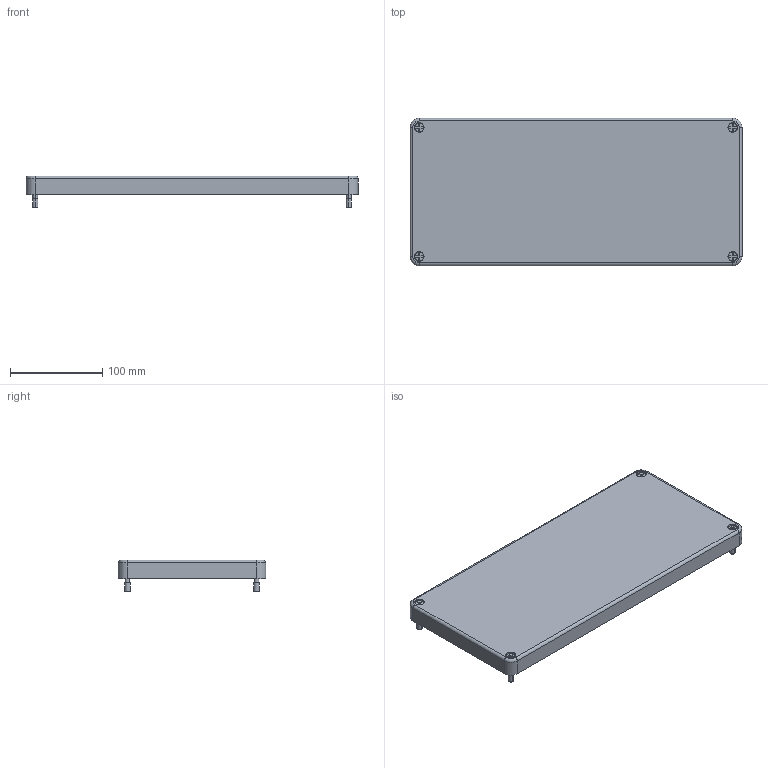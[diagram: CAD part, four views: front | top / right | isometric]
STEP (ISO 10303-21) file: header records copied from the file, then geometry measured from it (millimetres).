
FILE_DESCRIPTION((''),'2;1');
FILE_NAME('CD_NI-9922_LID','2009-07-15T',('scarrasc'),(''),'PRO/ENGINEER BY PARAMETRIC TECHNOLOGY CORPORATION, 2006300','PRO/ENGINEER BY PARAMETRIC TECHNOLOGY CORPORATION, 2006300','');
FILE_SCHEMA(('CONFIG_CONTROL_DESIGN'));
Length unit declared in the file: inch
Products named in the file (1): CD_NI-9922_LID
Bounding box: 360 x 160 x 34.5 mm (x, y, z)
Volume: 323065.2 mm3; surface area: 164343.7 mm2
Topology: 1 solids, 1 shells, 229 faces, 584 edges, 376 vertices
Faces by surface type: plane 109, cylinder 76, torus 36, cone 8
Entity records: 7114 total; most frequent: CARTESIAN_POINT 1341, DIRECTION 1262, ORIENTED_EDGE 1168, EDGE_CURVE 584, AXIS2_PLACEMENT_3D 465, VERTEX_POINT 376, VECTOR 332, LINE 332
